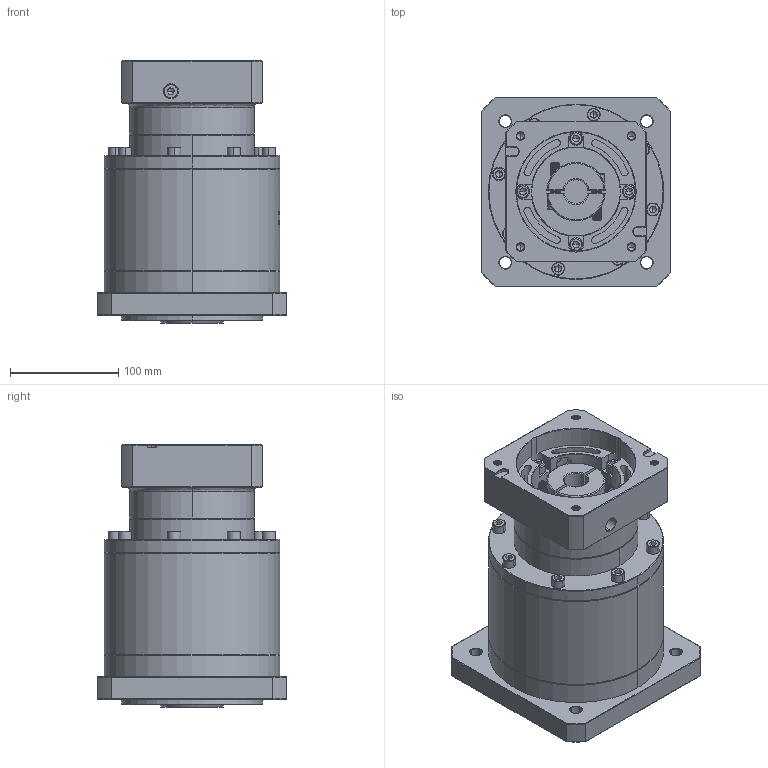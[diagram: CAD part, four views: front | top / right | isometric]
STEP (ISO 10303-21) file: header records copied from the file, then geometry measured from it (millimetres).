
FILE_DESCRIPTION (( 'STEP AP214' ), '1' );
FILE_NAME ('ZF160-K35-L3-22-110-145-M8.step', '2023-03-22T04:00:10', ( '' ), ( '' ), 'SwSTEP 2.0', 'SolidWorks 2016', '' );
FILE_SCHEMA (( 'AUTOMOTIVE_DESIGN' ));
Length unit declared in the file: millimetre
Products named in the file (1): ZF160-K35-L3-22-110-145-M8
Bounding box: 175 x 175 x 242.2 mm (x, y, z)
Volume: 4045578.4 mm3; surface area: 291631.5 mm2
Topology: 6 solids, 6 shells, 1855 faces, 4715 edges, 2979 vertices
Faces by surface type: plane 765, cylinder 474, cone 355, bspline 207, torus 54
Entity records: 96056 total; most frequent: CARTESIAN_POINT 32998, ORIENTED_EDGE 9326, DIRECTION 8237, EDGE_CURVE 4663, VERTEX_POINT 2979, AXIS2_PLACEMENT_3D 2859, VECTOR 2519, LINE 2519
